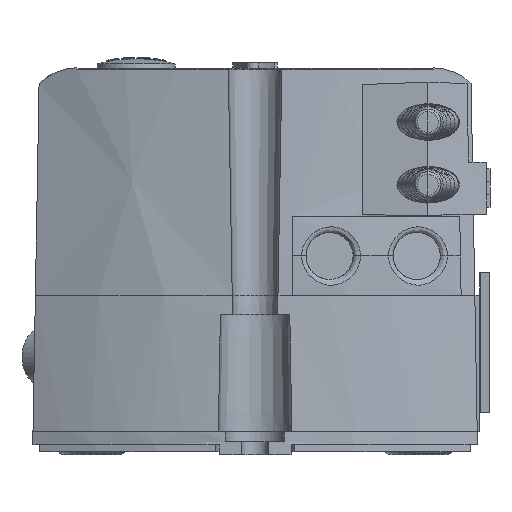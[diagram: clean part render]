
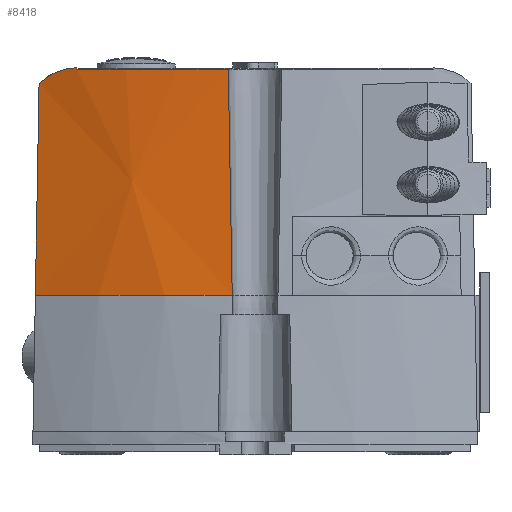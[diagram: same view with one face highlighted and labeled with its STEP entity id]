
A CAD part, left-side view. The second image highlights one B-rep face of the part: STEP entity #8418.
In plain terms, the highlighted conical face has half-angle 1 degrees and reference radius 80 mm.
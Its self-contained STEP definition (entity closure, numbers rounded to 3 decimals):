
#6680=CONICAL_SURFACE('',#22117,80.,1.);
#6707=CIRCLE('',#21035,79.635);
#6735=CIRCLE('',#21080,79.031);
#8418=ADVANCED_FACE('',(#9481),#6680,.T.);
#9481=FACE_OUTER_BOUND('',#10394,.T.);
#10394=EDGE_LOOP('',(#14222,#14223,#14224,#14225,#14226,#14227));
#10900=B_SPLINE_CURVE_WITH_KNOTS('',3,(#27215,#27216,#27217,#27218),
 .UNSPECIFIED.,.F.,.F.,(4,4),(0.,1.),.UNSPECIFIED.);
#10902=B_SPLINE_CURVE_WITH_KNOTS('',3,(#27224,#27225,#27226,#27227,#27228,
#27229,#27230),.UNSPECIFIED.,.F.,.F.,(4,3,4),(0.,0.001,1.),
 .UNSPECIFIED.);
#10909=B_SPLINE_CURVE_WITH_KNOTS('',3,(#27283,#27284,#27285,#27286,#27287,
#27288,#27289,#27290,#27291,#27292),.UNSPECIFIED.,.F.,.F.,(4,3,3,4),(0.,
0.471,0.942,1.),.UNSPECIFIED.);
#11160=B_SPLINE_CURVE_WITH_KNOTS('',3,(#32421,#32422,#32423,#32424),
 .UNSPECIFIED.,.F.,.F.,(4,4),(0.,1.),.UNSPECIFIED.);
#14222=ORIENTED_EDGE('',*,*,#17319,.F.);
#14223=ORIENTED_EDGE('',*,*,#17508,.T.);
#14224=ORIENTED_EDGE('',*,*,#17386,.F.);
#14225=ORIENTED_EDGE('',*,*,#17506,.F.);
#14226=ORIENTED_EDGE('',*,*,#17517,.F.);
#14227=ORIENTED_EDGE('',*,*,#18709,.F.);
#15940=VERTEX_POINT('',#26790);
#15942=VERTEX_POINT('',#26799);
#15999=VERTEX_POINT('',#26976);
#16000=VERTEX_POINT('',#26977);
#16100=VERTEX_POINT('',#27214);
#16103=VERTEX_POINT('',#27282);
#17319=EDGE_CURVE('',#15940,#15942,#6707,.T.);
#17386=EDGE_CURVE('',#15999,#16000,#6735,.T.);
#17506=EDGE_CURVE('',#16100,#15999,#10900,.T.);
#17508=EDGE_CURVE('',#15940,#16000,#10902,.T.);
#17517=EDGE_CURVE('',#16103,#16100,#10909,.T.);
#18709=EDGE_CURVE('',#15942,#16103,#11160,.T.);
#21035=AXIS2_PLACEMENT_3D('',#26798,#22640,#22641);
#21080=AXIS2_PLACEMENT_3D('',#26975,#22753,#22754);
#22117=AXIS2_PLACEMENT_3D('',#32425,#25310,#25311);
#22640=DIRECTION('',(0.,0.,-1.));
#22641=DIRECTION('',(0.,-1.,0.));
#22753=DIRECTION('',(0.,0.,1.));
#22754=DIRECTION('',(0.,-1.,0.));
#25310=DIRECTION('',(0.,0.,-1.));
#25311=DIRECTION('',(1.,0.,0.));
#26790=CARTESIAN_POINT('',(-93.803,3.5,-6.25));
#26798=CARTESIAN_POINT('',(-14.245,0.002,-6.25));
#26799=CARTESIAN_POINT('',(-86.429,33.635,-6.25));
#26975=CARTESIAN_POINT('',(-14.245,0.002,28.35));
#26976=CARTESIAN_POINT('',(-88.412,27.3,28.35));
#26977=CARTESIAN_POINT('',(-93.17,4.104,28.35));
#27214=CARTESIAN_POINT('',(-88.407,27.303,28.55));
#27215=CARTESIAN_POINT('',(-88.407,27.303,28.55));
#27216=CARTESIAN_POINT('',(-88.409,27.302,28.483));
#27217=CARTESIAN_POINT('',(-88.411,27.301,28.417));
#27218=CARTESIAN_POINT('',(-88.412,27.3,28.35));
#27224=CARTESIAN_POINT('',(-93.803,3.5,-6.25));
#27225=CARTESIAN_POINT('',(-93.803,3.5,-6.237));
#27226=CARTESIAN_POINT('',(-93.803,3.5,-6.224));
#27227=CARTESIAN_POINT('',(-93.803,3.501,-6.21));
#27228=CARTESIAN_POINT('',(-93.593,3.702,5.31));
#27229=CARTESIAN_POINT('',(-93.382,3.903,16.83));
#27230=CARTESIAN_POINT('',(-93.17,4.104,28.35));
#27282=CARTESIAN_POINT('',(-86.068,33.07,26.156));
#27283=CARTESIAN_POINT('',(-86.068,33.07,26.156));
#27284=CARTESIAN_POINT('',(-86.39,32.341,26.862));
#27285=CARTESIAN_POINT('',(-86.759,31.484,27.434));
#27286=CARTESIAN_POINT('',(-87.134,30.572,27.834));
#27287=CARTESIAN_POINT('',(-87.509,29.661,28.234));
#27288=CARTESIAN_POINT('',(-87.899,28.67,28.474));
#27289=CARTESIAN_POINT('',(-88.269,27.676,28.535));
#27290=CARTESIAN_POINT('',(-88.316,27.552,28.543));
#27291=CARTESIAN_POINT('',(-88.361,27.428,28.548));
#27292=CARTESIAN_POINT('',(-88.407,27.303,28.55));
#32421=CARTESIAN_POINT('',(-86.429,33.635,-6.25));
#32422=CARTESIAN_POINT('',(-86.309,33.447,4.552));
#32423=CARTESIAN_POINT('',(-86.189,33.258,15.354));
#32424=CARTESIAN_POINT('',(-86.068,33.07,26.156));
#32425=CARTESIAN_POINT('',(-14.245,0.002,-27.15));
